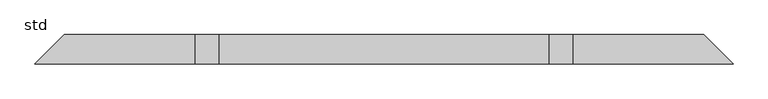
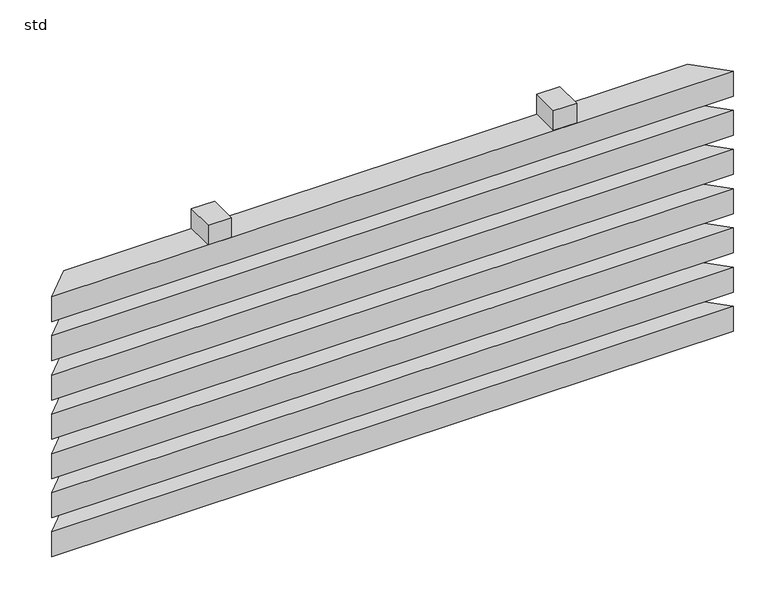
"""IFC4 building model written with IfcOpenShell, lengths in millimetres: unitary equipment geometry, Wavin_MechanicalEquipment_QBicPlusZDoNotUseLateralSidePlate : std."""

import ifcopenshell
import ifcopenshell.guid

model = None  # the IFC model being written
_history = None  # IfcOwnerHistory: only IFC2X3 demands one
_inside = {}  # id of a spatial element -> (the spatial element, [elements in it])
_under = {}  # id of a project, library or spatial element -> (it, [spatial elements below it])
_declared = {}  # id of a project -> (the project, [libraries it declares])
_typed = {}  # id of a type object -> (the type object, [elements of that type])
_made_of = {}  # id of a material, layer set ... -> (it, [elements and type objects made of it])


def new_model(schema):
    """Start an empty IFC model of exactly this schema.

    Asked for "IFC4X3", IfcOpenShell would pick the latest addendum, in which some entities
    have other attributes; the version numbers below select the first issue.
    IFC2X3 requires an IfcOwnerHistory on every rooted entity: one is made here for all.
    """
    global model, _history
    if schema == "IFC4X3":
        model = ifcopenshell.file(schema_version=(4, 3, 0, 0))
    else:
        model = ifcopenshell.file(schema=schema)
    _inside.clear()
    _under.clear()
    _declared.clear()
    _typed.clear()
    _made_of.clear()
    _history = None
    if model.schema == "IFC2X3":
        org = make("IfcOrganization", Name="unknown")
        user = make(
            "IfcPersonAndOrganization",
            ThePerson=make("IfcPerson", FamilyName="unknown"),
            TheOrganization=org,
        )
        app = make(
            "IfcApplication",
            ApplicationDeveloper=org,
            Version="unknown",
            ApplicationFullName="unknown",
            ApplicationIdentifier="unknown",
        )
        _history = make(
            "IfcOwnerHistory",
            OwningUser=user,
            OwningApplication=app,
            ChangeAction="ADDED",
            CreationDate=0,
        )
    return model


def make(cls, **values):
    """One entity of the class cls with the attributes given. An attribute that is None is left unset."""
    return model.create_entity(
        cls, **{name: value for name, value in values.items() if value is not None}
    )


def rooted(cls, **values):
    """An entity with a GlobalId (a new one), such as an element, a storey or a relation."""
    return make(cls, GlobalId=ifcopenshell.guid.new(), OwnerHistory=_history, **values)


def si_unit(unit_type, name, prefix=None):
    """IfcSIUnit, for example si_unit("LENGTHUNIT", "METRE", prefix="MILLI")."""
    return make("IfcSIUnit", UnitType=unit_type, Prefix=prefix, Name=name)


def assignment(units):
    """IfcUnitAssignment: the units of a project."""
    return None if units is None else make("IfcUnitAssignment", Units=units)


def point(xyz):
    """IfcCartesianPoint."""
    return None if xyz is None else make("IfcCartesianPoint", Coordinates=xyz)


def direction(xyz):
    """IfcDirection."""
    return None if xyz is None else make("IfcDirection", DirectionRatios=xyz)


def frame(location, z_axis=None, x_axis=None):
    """IfcAxis2Placement3D, a coordinate frame: its origin and axes. An axis left out is left unset."""
    return make(
        "IfcAxis2Placement3D",
        Location=point(location),
        Axis=direction(z_axis),
        RefDirection=direction(x_axis),
    )


def origin():
    """The frame at (0, 0, 0) with its axes left unset."""
    return frame((0.0, 0.0, 0.0))


def place(relative_to, where):
    """IfcLocalPlacement: puts the frame where relative to a parent placement (None: the world)."""
    return make(
        "IfcLocalPlacement", PlacementRelTo=relative_to, RelativePlacement=where
    )


def context(
    kind, dimensions, precision=None, world=None, true_north=None, identifier=None
):
    """IfcGeometricRepresentationContext, for example the 3D "Model" context."""
    return make(
        "IfcGeometricRepresentationContext",
        ContextIdentifier=identifier,
        ContextType=kind,
        CoordinateSpaceDimension=dimensions,
        Precision=precision,
        WorldCoordinateSystem=world,
        TrueNorth=true_north,
    )


def project(units=None, contexts=None):
    """IfcProject with its units and contexts."""
    return rooted(
        "IfcProject",
        Name="project",
        RepresentationContexts=contexts,
        UnitsInContext=assignment(units),
    )


def spatial(cls, under=None, at=None, **own):
    """A site, building, storey or space (cls), placed at a placement, below another one or the project."""
    s = rooted(cls, ObjectPlacement=at, **own)
    if under is not None:
        _under.setdefault(under.id(), (under, []))[1].append(s)
    return s


def polyline(points):
    """IfcPolyline through the points."""
    return make("IfcPolyline", Points=[point(p) for p in points])


def outline(outer, holes=None, kind="AREA"):
    """IfcArbitraryClosedProfileDef: a profile drawn as a closed curve; with holes, ...WithVoids."""
    if holes is None:
        return make("IfcArbitraryClosedProfileDef", ProfileType=kind, OuterCurve=outer)
    return make(
        "IfcArbitraryProfileDefWithVoids",
        ProfileType=kind,
        OuterCurve=outer,
        InnerCurves=holes,
    )


def extrude(swept, where, along, depth):
    """IfcExtrudedAreaSolid: the profile swept, set in the frame where, extruded along a direction by depth."""
    return make(
        "IfcExtrudedAreaSolid",
        SweptArea=swept,
        Position=where,
        ExtrudedDirection=direction(along),
        Depth=depth,
    )


def shape(context_of_items, identifier, shape_type, items):
    """IfcShapeRepresentation: the items that make up one representation, for example the "Body"."""
    return make(
        "IfcShapeRepresentation",
        ContextOfItems=context_of_items,
        RepresentationIdentifier=identifier,
        RepresentationType=shape_type,
        Items=items,
    )


def source(mapping_origin, context_of_items, identifier, shape_type, items):
    """IfcRepresentationMap: a shape defined once, which mapped items show again and again."""
    return make(
        "IfcRepresentationMap",
        MappingOrigin=mapping_origin,
        MappedRepresentation=shape(context_of_items, identifier, shape_type, items),
    )


def transform(
    local_origin,
    x_axis=None,
    y_axis=None,
    z_axis=None,
    scale=None,
    scale2=None,
    scale3=None,
    uniform=True,
):
    """IfcCartesianTransformationOperator3D, or its non-uniform kind. x_axis, y_axis, z_axis: its Axis1, 2, 3."""
    if uniform:
        return make(
            "IfcCartesianTransformationOperator3D",
            Axis1=direction(x_axis),
            Axis2=direction(y_axis),
            LocalOrigin=point(local_origin),
            Scale=scale,
            Axis3=direction(z_axis),
        )
    return make(
        "IfcCartesianTransformationOperator3DnonUniform",
        Axis1=direction(x_axis),
        Axis2=direction(y_axis),
        LocalOrigin=point(local_origin),
        Scale=scale,
        Axis3=direction(z_axis),
        Scale2=scale2,
        Scale3=scale3,
    )


def mapped(mapping_source, mapping_target):
    """IfcMappedItem: shows the shape of a source again, moved by a transform."""
    return make(
        "IfcMappedItem", MappingSource=mapping_source, MappingTarget=mapping_target
    )


def made_of(thing, what):
    """Note that an element or type object is made of a material, layer set ...; save() writes the relation."""
    if what is not None:
        _made_of.setdefault(what.id(), (what, []))[1].append(thing)
    return thing


def element(
    cls,
    number,
    at=None,
    inside=None,
    cuts=None,
    type_object=None,
    material=None,
    context=None,
    identifier="Body",
    shape_type=None,
    held_by="IfcProductDefinitionShape",
    body=None,
    shapes=None,
    **own,
):
    """One element of the class cls, such as IfcWall. Its Tag is "e" and its number.

    at: its placement. inside: the storey or other place that contains it. cuts: it is an
    opening in that element (IfcRelVoidsElement). A single representation is given by context,
    identifier, shape_type and body (its items); several are given by shapes. held_by: the class
    of the entity that holds the representations. save() writes the other relations.
    """
    e = rooted(cls, Tag="e%d" % number, ObjectPlacement=at, **own)
    if body is not None:
        shapes = [shape(context, identifier, shape_type, body)]
    if shapes is not None:
        e.Representation = make(held_by, Representations=shapes)
    if inside is not None:
        _inside.setdefault(inside.id(), (inside, []))[1].append(e)
    if cuts is not None:
        rooted(
            "IfcRelVoidsElement", RelatingBuildingElement=cuts, RelatedOpeningElement=e
        )
    if type_object is not None:
        _typed.setdefault(type_object.id(), (type_object, []))[1].append(e)
    return made_of(e, material)


def aggregate(whole, parts):
    """IfcRelAggregates: a whole, such as a stair, and the parts it consists of."""
    return rooted("IfcRelAggregates", RelatingObject=whole, RelatedObjects=parts)


def save(model, path):
    """Write the relations noted so far, then the file.

    IfcRelAggregates (storeys below a building ...), IfcRelContainedInSpatialStructure (elements
    in a storey), IfcRelDefinesByType, IfcRelAssociatesMaterial and IfcRelDeclares: one each for
    every whole, place, type object, material and project.
    """
    for whole, parts in _under.values():
        aggregate(whole, parts)
    for where, things in _inside.values():
        rooted(
            "IfcRelContainedInSpatialStructure",
            RelatedElements=things,
            RelatingStructure=where,
        )
    for kind, things in _typed.values():
        rooted("IfcRelDefinesByType", RelatedObjects=things, RelatingType=kind)
    for what, things in _made_of.values():
        rooted("IfcRelAssociatesMaterial", RelatedObjects=things, RelatingMaterial=what)
    for by, libraries in _declared.values():
        rooted("IfcRelDeclares", RelatingContext=by, RelatedDefinitions=libraries)
    model.write(path)


def std_f31acf44(model_context):
    return source(origin(), model_context, "Body", "SweptSolid", [
        extrude(outline(polyline([(920.0, 50.0), (920.0, 0.0), (880.0, 0.0), (880.0, 50.0), (920.0, 50.0)])), frame((0.0, 0.0, 578.0), z_axis=(0.0, 0.0, 1.0), x_axis=(1.0, 0.0, 0.0)), (0.0, 0.0, 1.0), 36.0),
        extrude(outline(polyline([(320.0, 50.0), (320.0, 0.0), (280.0, 0.0), (280.0, 50.0), (320.0, 50.0)])), frame((0.0, 0.0, 578.0), z_axis=(0.0, 0.0, 1.0), x_axis=(1.0, 0.0, 0.0)), (0.0, 0.0, 1.0), 36.0),
        extrude(outline(polyline([(1192.0, 0.0), (8.0, 0.0), (58.0, 50.0), (1142.0, 50.0), (1192.0, 0.0)])), frame((0.0, 0.0, 100.0), z_axis=(0.0, 0.0, 1.0), x_axis=(1.0, 0.0, 0.0)), (0.0, 0.0, 1.0), 46.0),
        extrude(outline(polyline([(1192.0, 0.0), (8.0, 0.0), (58.0, 50.0), (1142.0, 50.0), (1192.0, 0.0)])), frame((0.0, 0.0, 172.0), z_axis=(0.0, 0.0, 1.0), x_axis=(1.0, 0.0, 0.0)), (0.0, 0.0, 1.0), 46.0),
        extrude(outline(polyline([(1192.0, 0.0), (8.0, 0.0), (58.0, 50.0), (1142.0, 50.0), (1192.0, 0.0)])), frame((0.0, 0.0, 244.0), z_axis=(0.0, 0.0, 1.0), x_axis=(1.0, 0.0, 0.0)), (0.0, 0.0, 1.0), 46.0),
        extrude(outline(polyline([(1192.0, 0.0), (8.0, 0.0), (58.0, 50.0), (1142.0, 50.0), (1192.0, 0.0)])), frame((0.0, 0.0, 316.0), z_axis=(0.0, 0.0, 1.0), x_axis=(1.0, 0.0, 0.0)), (0.0, 0.0, 1.0), 46.0),
        extrude(outline(polyline([(1192.0, 0.0), (8.0, 0.0), (58.0, 50.0), (1142.0, 50.0), (1192.0, 0.0)])), frame((0.0, 0.0, 388.0), z_axis=(0.0, 0.0, 1.0), x_axis=(1.0, 0.0, 0.0)), (0.0, 0.0, 1.0), 46.0),
        extrude(outline(polyline([(1192.0, 0.0), (8.0, 0.0), (58.0, 50.0), (1142.0, 50.0), (1192.0, 0.0)])), frame((0.0, 0.0, 460.0), z_axis=(0.0, 0.0, 1.0), x_axis=(1.0, 0.0, 0.0)), (0.0, 0.0, 1.0), 46.0),
        extrude(outline(polyline([(1192.0, 0.0), (8.0, 0.0), (58.0, 50.0), (1142.0, 50.0), (1192.0, 0.0)])), frame((0.0, 0.0, 532.0), z_axis=(0.0, 0.0, 1.0), x_axis=(1.0, 0.0, 0.0)), (0.0, 0.0, 1.0), 46.0),
    ])


if __name__ == "__main__":
    model = new_model("IFC4")
    model_context = context("Model", 3, world=origin())
    ifc_project = project(units=[si_unit("LENGTHUNIT", "METRE", prefix="MILLI")], contexts=[model_context])
    site = spatial("IfcSite", under=ifc_project)
    building = spatial("IfcBuilding", under=site)
    placement = place(None, origin())
    std_shape = std_f31acf44(model_context)
    element("IfcUnitaryEquipment", 1, ObjectType="Wavin_MechanicalEquipment_QBicPlusZDoNotUseLateralSidePlate : std", at=placement, inside=building, context=model_context, shape_type="MappedRepresentation", body=[
        mapped(std_shape, transform((0.0, 0.0, 0.0), x_axis=(1.0, 0.0, 0.0), y_axis=(0.0, 1.0, 0.0), z_axis=(0.0, 0.0, 1.0))),
    ])
    save(model, "model.ifc")
